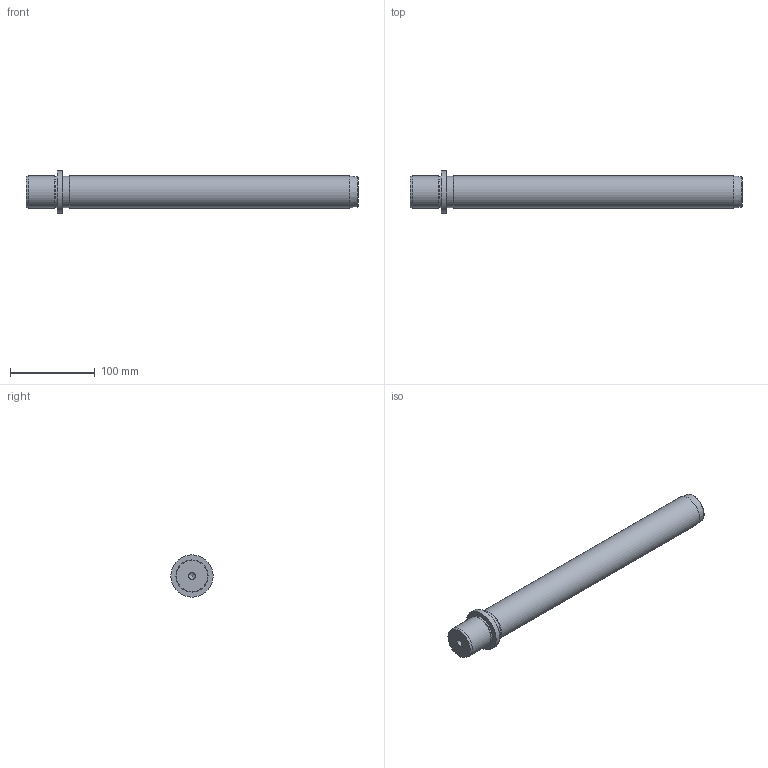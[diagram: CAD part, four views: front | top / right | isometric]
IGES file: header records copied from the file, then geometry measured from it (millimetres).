
Global section: file name: CEAQ38355.ipt; native system: Autodesk Inventor 2021; preprocessor: unknown; author: SM; date: 20211206.133614; units: millimetre
Bounding box: 392 x 50 x 50 mm (x, y, z)
Volume: 445379.3 mm3; surface area: 52102.7 mm2
Topology: 1 solids, 1 shells, 20 faces, 45 edges, 29 vertices
Faces by surface type: revolution 5, cylinder 5, cone 4, plane 4, bspline 2
Full cylindrical faces by diameter (mm): 37 x2, 38 x2, 50 x1
